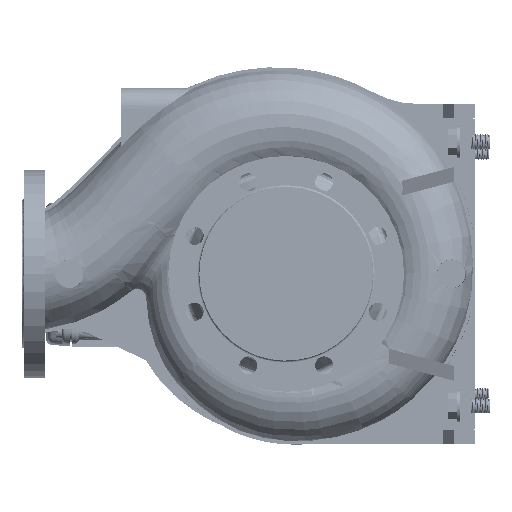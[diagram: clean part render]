
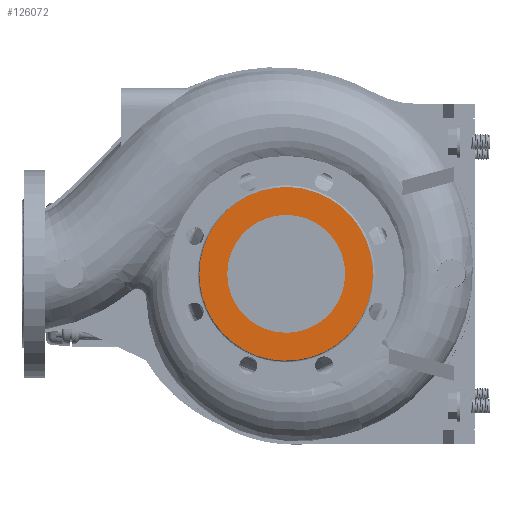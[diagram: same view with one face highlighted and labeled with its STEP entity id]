
A CAD part, left-side view. The second image highlights one B-rep face of the part: STEP entity #126072.
In plain terms, the highlighted planar face has unit normal (-1, 0, 0).
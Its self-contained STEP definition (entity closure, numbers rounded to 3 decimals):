
#5726 = CARTESIAN_POINT ( 'NONE',  ( -125., 43.438, 81.267 ) ) ;
#7915 = CARTESIAN_POINT ( 'NONE',  ( -125., 74.163, -55.003 ) ) ;
#9169 = CARTESIAN_POINT ( 'NONE',  ( -125., -76.988, -51.442 ) ) ;
#9243 = CARTESIAN_POINT ( 'NONE',  ( -125., 0., 62.5 ) ) ;
#9956 = DIRECTION ( 'NONE',  ( 0., 0., -1. ) ) ;
#11711 = CARTESIAN_POINT ( 'NONE',  ( -125., -92., 0. ) ) ;
#14055 = VERTEX_POINT ( 'NONE', #148499 ) ;
#14458 = FACE_OUTER_BOUND ( 'NONE', #218699, .T. ) ;
#14599 = CARTESIAN_POINT ( 'NONE',  ( -125., -76.988, 51.442 ) ) ;
#27497 = CARTESIAN_POINT ( 'NONE',  ( -125., 74.163, 55.003 ) ) ;
#28440 = CARTESIAN_POINT ( 'NONE',  ( -125., -65.473, -65.473 ) ) ;
#30945 = CARTESIAN_POINT ( 'NONE',  ( -125., 0.001, -92.593 ) ) ;
#32574 = CARTESIAN_POINT ( 'NONE',  ( -125., -51.442, 76.988 ) ) ;
#39122 = DIRECTION ( 'NONE',  ( -1., 0., 0. ) ) ;
#42394 = CIRCLE ( 'NONE', #107983, 62.5 ) ;
#44228 = CARTESIAN_POINT ( 'NONE',  ( -125., 51.195, 76.618 ) ) ;
#44655 = CARTESIAN_POINT ( 'NONE',  ( -125., 0., 0. ) ) ;
#51878 = VERTEX_POINT ( 'NONE', #9243 ) ;
#54338 = EDGE_CURVE ( 'NONE', #51878, #14055, #42394, .T. ) ;
#58355 = DIRECTION ( 'NONE',  ( 0., 0., -1. ) ) ;
#63451 = CARTESIAN_POINT ( 'NONE',  ( -125., 58.458, 71.231 ) ) ;
#63459 = CARTESIAN_POINT ( 'NONE',  ( -125., -92., 0. ) ) ;
#65616 = CARTESIAN_POINT ( 'NONE',  ( -125., -92., -6.021 ) ) ;
#65673 = ORIENTED_EDGE ( 'NONE', *, *, #78796, .F. ) ;
#66390 = DIRECTION ( 'NONE',  ( -1., 0., 0. ) ) ;
#68352 = PLANE ( 'NONE',  #148598 ) ;
#69431 = CARTESIAN_POINT ( 'NONE',  ( -125., 51.195, -76.618 ) ) ;
#70693 = CARTESIAN_POINT ( 'NONE',  ( -125., 43.438, -81.267 ) ) ;
#78796 = EDGE_CURVE ( 'NONE', #177784, #146000, #80036, .T. ) ;
#80036 = B_SPLINE_CURVE_WITH_KNOTS ( 'NONE', 3,
 ( #141763, #82724, #103231, #239321, #83986, #220050, #203272, #27497, #140496, #63451, #44228, #5726, #162240, #145540, #143022, #223826, #149330, #32574, #132600, #14599, #187858, #91587, #151882, #92858 ),
 .UNSPECIFIED., .F., .F.,
 ( 4, 1, 1, 1, 1, 1, 1, 1, 1, 1, 1, 1, 1, 1, 1, 1, 1, 1, 1, 1, 1, 4 ),
 ( 0., 0.009, 0.018, 0.027, 0.036, 0.045, 0.059, 0.073, 0.082, 0.091, 0.1, 0.109, 0.127, 0.145, 0.163, 0.181, 0.199, 0.218, 0.236, 0.254, 0.272, 0.29 ),
 .UNSPECIFIED. ) ;
#82724 = CARTESIAN_POINT ( 'NONE',  ( -125., 92., 3.009 ) ) ;
#83986 = CARTESIAN_POINT ( 'NONE',  ( -125., 88.18, 26.749 ) ) ;
#86181 = CARTESIAN_POINT ( 'NONE',  ( -125., 90.377, -17.977 ) ) ;
#87447 = CARTESIAN_POINT ( 'NONE',  ( -125., 66.273, -64.149 ) ) ;
#88594 = AXIS2_PLACEMENT_3D ( 'NONE', #100660, #39122, #58355 ) ;
#89325 = ORIENTED_EDGE ( 'NONE', *, *, #229936, .F. ) ;
#91587 = CARTESIAN_POINT ( 'NONE',  ( -125., -90.814, 18.064 ) ) ;
#92858 = CARTESIAN_POINT ( 'NONE',  ( -125., -92., 0. ) ) ;
#100660 = CARTESIAN_POINT ( 'NONE',  ( -125., 0., 0. ) ) ;
#103231 = CARTESIAN_POINT ( 'NONE',  ( -125., 91.704, 9.033 ) ) ;
#105407 = CARTESIAN_POINT ( 'NONE',  ( -125., -85.545, -35.434 ) ) ;
#107983 = AXIS2_PLACEMENT_3D ( 'NONE', #44655, #66390, #9956 ) ;
#126072 = ADVANCED_FACE ( 'NONE', ( #187707, #14458 ), #68352, .F. ) ;
#127376 = CARTESIAN_POINT ( 'NONE',  ( -125., -93.104, 93.104 ) ) ;
#132600 = CARTESIAN_POINT ( 'NONE',  ( -125., -65.473, 65.473 ) ) ;
#140496 = CARTESIAN_POINT ( 'NONE',  ( -125., 66.273, 64.149 ) ) ;
#141763 = CARTESIAN_POINT ( 'NONE',  ( -125., 92., 0. ) ) ;
#143022 = CARTESIAN_POINT ( 'NONE',  ( -125., 0.001, 92.593 ) ) ;
#143914 = CARTESIAN_POINT ( 'NONE',  ( -125., -90.814, -18.064 ) ) ;
#145193 = CARTESIAN_POINT ( 'NONE',  ( -125., 85.133, -35.264 ) ) ;
#145362 = B_SPLINE_CURVE_WITH_KNOTS ( 'NONE', 3,
 ( #11711, #65616, #143914, #105407, #9169, #28440, #246565, #204199, #223481, #30945, #147721, #202923, #70693, #69431, #183688, #87447, #7915, #186240, #145193, #226013, #86181, #242755, #148984, #165690 ),
 .UNSPECIFIED., .F., .F.,
 ( 4, 1, 1, 1, 1, 1, 1, 1, 1, 1, 1, 1, 1, 1, 1, 1, 1, 1, 1, 1, 1, 4 ),
 ( 0., 0.018, 0.036, 0.054, 0.072, 0.091, 0.109, 0.127, 0.145, 0.163, 0.181, 0.19, 0.199, 0.208, 0.217, 0.231, 0.244, 0.254, 0.263, 0.272, 0.281, 0.29 ),
 .UNSPECIFIED. ) ;
#145540 = CARTESIAN_POINT ( 'NONE',  ( -125., 18.062, 90.815 ) ) ;
#146000 = VERTEX_POINT ( 'NONE', #63459 ) ;
#147721 = CARTESIAN_POINT ( 'NONE',  ( -125., 18.062, -90.815 ) ) ;
#148499 = CARTESIAN_POINT ( 'NONE',  ( -125., 0., -62.5 ) ) ;
#148598 = AXIS2_PLACEMENT_3D ( 'NONE', #127376, #170989, #150464 ) ;
#148984 = CARTESIAN_POINT ( 'NONE',  ( -125., 92., -3.009 ) ) ;
#149330 = CARTESIAN_POINT ( 'NONE',  ( -125., -35.434, 85.545 ) ) ;
#150464 = DIRECTION ( 'NONE',  ( 0., 0., -1. ) ) ;
#151882 = CARTESIAN_POINT ( 'NONE',  ( -125., -92., 6.021 ) ) ;
#154222 = CARTESIAN_POINT ( 'NONE',  ( -125., 92., 0. ) ) ;
#161117 = EDGE_CURVE ( 'NONE', #146000, #177784, #145362, .T. ) ;
#162240 = CARTESIAN_POINT ( 'NONE',  ( -125., 32.548, 86.419 ) ) ;
#165690 = CARTESIAN_POINT ( 'NONE',  ( -125., 92., 0. ) ) ;
#166428 = CIRCLE ( 'NONE', #88594, 62.5 ) ;
#170989 = DIRECTION ( 'NONE',  ( 1., 0., 0. ) ) ;
#177784 = VERTEX_POINT ( 'NONE', #154222 ) ;
#183688 = CARTESIAN_POINT ( 'NONE',  ( -125., 58.458, -71.231 ) ) ;
#184383 = ORIENTED_EDGE ( 'NONE', *, *, #54338, .F. ) ;
#186240 = CARTESIAN_POINT ( 'NONE',  ( -125., 80.624, -44.798 ) ) ;
#187707 = FACE_BOUND ( 'NONE', #201427, .T. ) ;
#187858 = CARTESIAN_POINT ( 'NONE',  ( -125., -85.545, 35.434 ) ) ;
#201427 = EDGE_LOOP ( 'NONE', ( #89325, #184383 ) ) ;
#202923 = CARTESIAN_POINT ( 'NONE',  ( -125., 32.548, -86.419 ) ) ;
#203272 = CARTESIAN_POINT ( 'NONE',  ( -125., 80.624, 44.798 ) ) ;
#204199 = CARTESIAN_POINT ( 'NONE',  ( -125., -35.434, -85.545 ) ) ;
#209597 = ORIENTED_EDGE ( 'NONE', *, *, #161117, .F. ) ;
#218699 = EDGE_LOOP ( 'NONE', ( #209597, #65673 ) ) ;
#220050 = CARTESIAN_POINT ( 'NONE',  ( -125., 85.133, 35.264 ) ) ;
#223481 = CARTESIAN_POINT ( 'NONE',  ( -125., -18.064, -90.814 ) ) ;
#223826 = CARTESIAN_POINT ( 'NONE',  ( -125., -18.064, 90.814 ) ) ;
#226013 = CARTESIAN_POINT ( 'NONE',  ( -125., 88.18, -26.749 ) ) ;
#229936 = EDGE_CURVE ( 'NONE', #14055, #51878, #166428, .T. ) ;
#239321 = CARTESIAN_POINT ( 'NONE',  ( -125., 90.377, 17.977 ) ) ;
#242755 = CARTESIAN_POINT ( 'NONE',  ( -125., 91.704, -9.033 ) ) ;
#246565 = CARTESIAN_POINT ( 'NONE',  ( -125., -51.442, -76.988 ) ) ;
